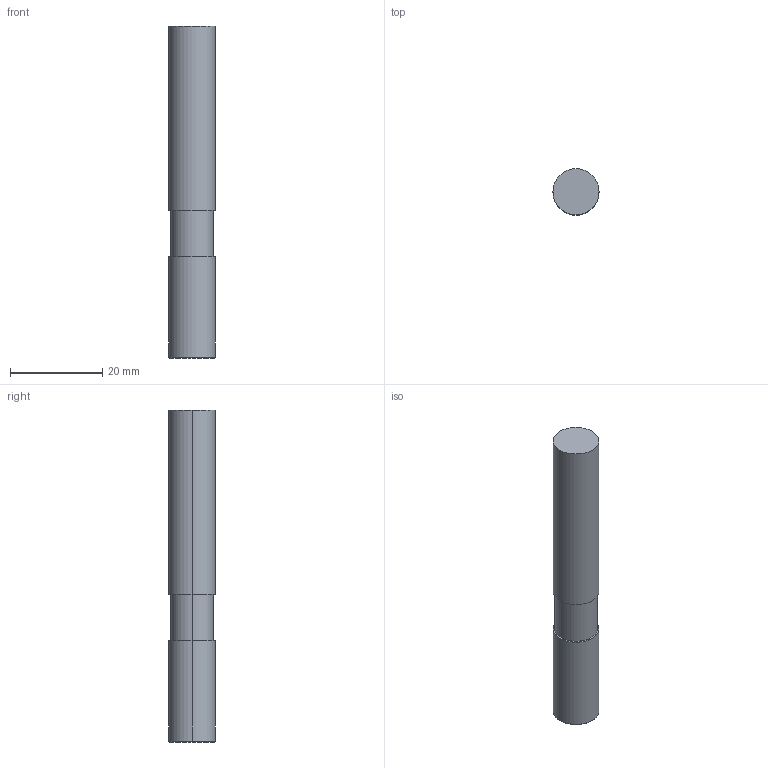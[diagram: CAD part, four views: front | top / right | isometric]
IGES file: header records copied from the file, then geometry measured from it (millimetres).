
Start section: 3D InterOp IGES (v. 2020 1.0.1), Spatial Corp. Copyright (c) 1999-2017.
Global section: file name: WZF125487_10.igs; native system: Spatial Corp.; preprocessor: 3D InterOp GENERIC/IGES 3.0; author: Noname; organization: Noname; date: 20201007.094330; units: metre
Bounding box: 10 x 10 x 72 mm (x, y, z)
Surface area: 2414.3 mm2 (no closed solid volume)
Topology: 0 solids, 0 shells, 12 faces, 44 edges, 44 vertices
Faces by surface type: revolution 8, extrusion 4
